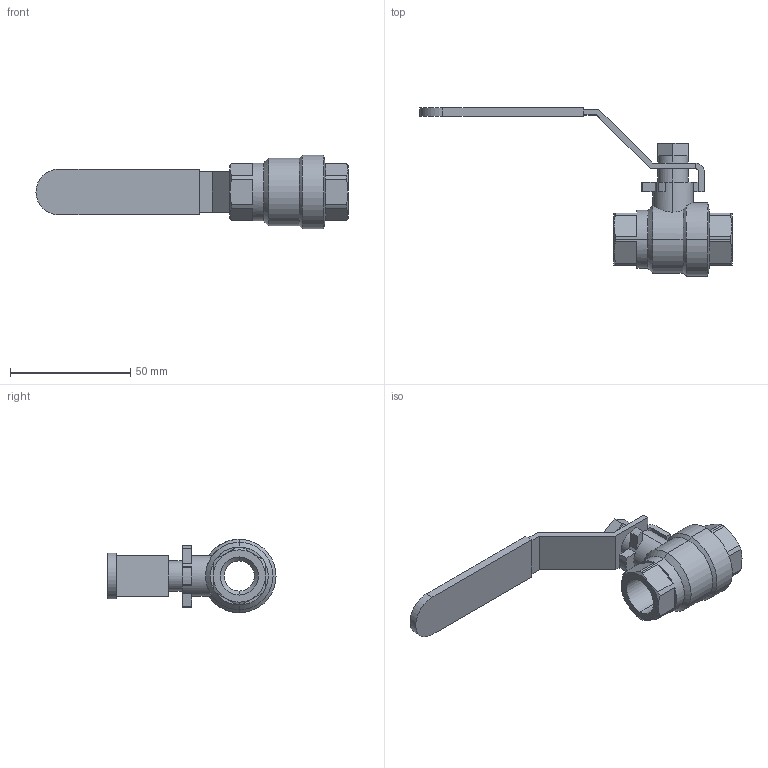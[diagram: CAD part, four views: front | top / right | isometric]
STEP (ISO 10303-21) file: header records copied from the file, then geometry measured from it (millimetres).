
FILE_DESCRIPTION (( 'STEP AP203' ), '1' );
FILE_NAME ('B3.622I010XFVPB0.STEP', '2018-12-14T09:18:17', ( 'dell2' ), ( 'Microsoft' ), 'SwSTEP 2.0', 'SolidWorks 2017', '' );
FILE_SCHEMA (( 'CONFIG_CONTROL_DESIGN' ));
Length unit declared in the file: millimetre
Products named in the file (1): B3.622I010XFVPB0
Bounding box: 129.5 x 69.75 x 30.5 mm (x, y, z)
Volume: 29653.5 mm3; surface area: 13769.6 mm2
Topology: 1 solids, 1 shells, 130 faces, 323 edges, 199 vertices
Faces by surface type: plane 72, cylinder 33, cone 25
Entity records: 4097 total; most frequent: CARTESIAN_POINT 913, DIRECTION 662, ORIENTED_EDGE 646, EDGE_CURVE 323, AXIS2_PLACEMENT_3D 244, VERTEX_POINT 199, VECTOR 174, LINE 174
